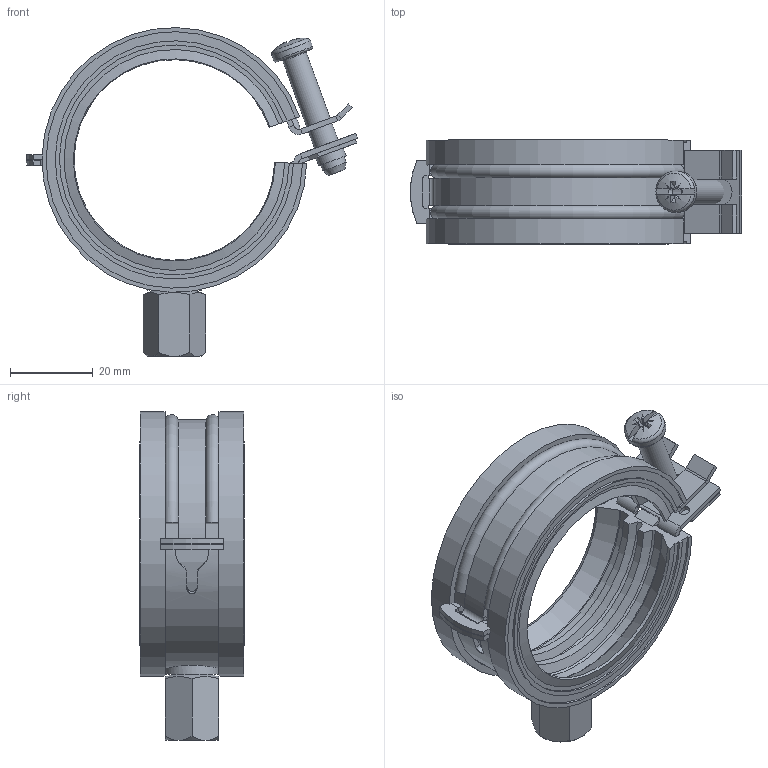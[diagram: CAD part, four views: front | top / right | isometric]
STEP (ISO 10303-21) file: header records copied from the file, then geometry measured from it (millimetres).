
FILE_DESCRIPTION(/* description */ (''),/* implementation_level */ '2;1');
FILE_NAME(/* name */ 'Schelle_Gr. 3+4_301662.stp',/* time_stamp */ '2024-11-07T07:13:00+01:00',/* author */ ('ASc'),/* organization */ (''),/* preprocessor_version */ 'ST-DEVELOPER v19.2',/* originating_system */ 'Autodesk Inventor 2023',/* authorisation */ '');
FILE_SCHEMA (('AUTOMOTIVE_DESIGN { 1 0 10303 214 3 1 1 }'));
Length unit declared in the file: millimetre
Products named in the file (1): Schelle_Gr. 3+4_301662
Bounding box: 79.8 x 25.23 x 79.24 mm (x, y, z)
Volume: 24320.9 mm3; surface area: 28416 mm2
Topology: 6 solids, 6 shells, 270 faces, 706 edges, 447 vertices
Faces by surface type: plane 152, cylinder 60, cone 30, bspline 19, torus 6, sphere 3
Full cylindrical faces by diameter (mm): 2.5 x2, 5 x1, 6 x1, 6.8 x1, 7 x1, 8.5 x1, 10 x1, 10.5 x1, 13 x1
Entity records: 9252 total; most frequent: CARTESIAN_POINT 2296, ORIENTED_EDGE 1410, DIRECTION 1372, EDGE_CURVE 705, AXIS2_PLACEMENT_3D 485, VERTEX_POINT 447, LINE 402, VECTOR 402
